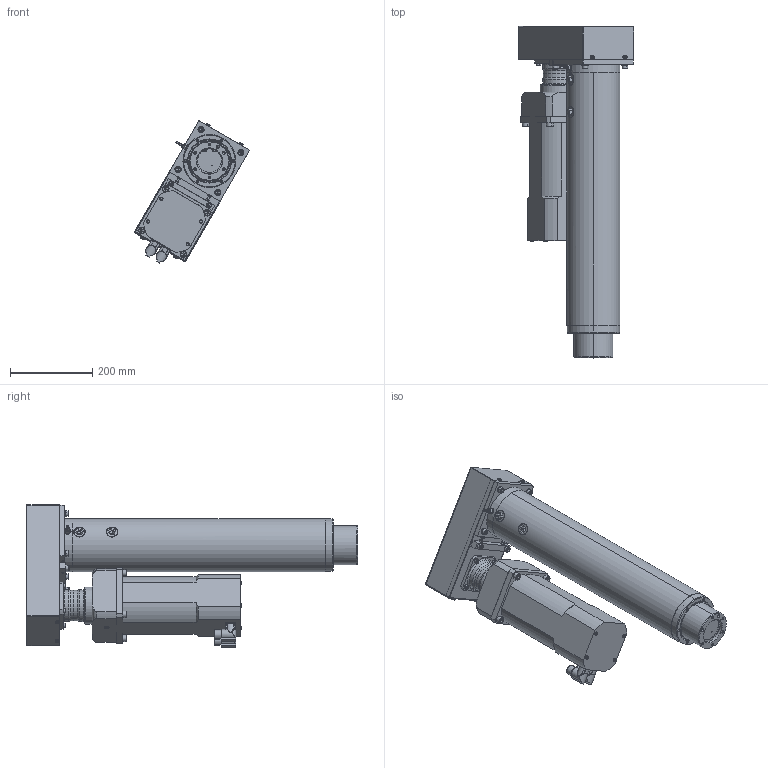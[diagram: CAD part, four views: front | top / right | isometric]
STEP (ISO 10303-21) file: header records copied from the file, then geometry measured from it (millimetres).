
FILE_DESCRIPTION (( 'STEP AP203' ), '1' );
FILE_NAME ('LN5P0300-035-025N.STEP', '2017-04-20T06:58:02', ( 'Holtz' ), ( '' ), 'SwSTEP 2.0', 'SolidWorks 2016', '' );
FILE_SCHEMA (( 'CONFIG_CONTROL_DESIGN' ));
Length unit declared in the file: millimetre
Products named in the file (1): LN5P0300-035-025N
Bounding box: 280.28 x 807.5 x 345.98 mm (x, y, z)
Volume: 12959851.8 mm3; surface area: 1580874.8 mm2
Topology: 44 solids, 44 shells, 1408 faces, 3243 edges, 1937 vertices
Faces by surface type: plane 563, cylinder 511, cone 258, torus 68, bspline 6, sphere 2
Entity records: 40668 total; most frequent: CARTESIAN_POINT 8493, DIRECTION 7121, ORIENTED_EDGE 6218, EDGE_CURVE 3109, AXIS2_PLACEMENT_3D 2765, VERTEX_POINT 1937, EDGE_LOOP 1680, VECTOR 1591
